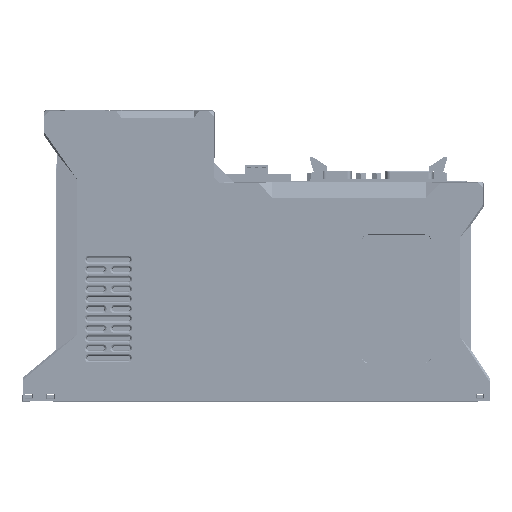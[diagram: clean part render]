
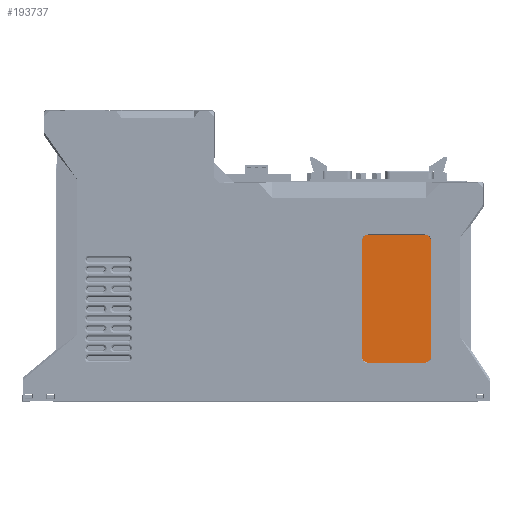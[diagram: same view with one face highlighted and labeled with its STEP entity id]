
A CAD part, left-side view. The second image highlights one B-rep face of the part: STEP entity #193737.
In plain terms, the highlighted planar face has unit normal (-1, 0, 0).
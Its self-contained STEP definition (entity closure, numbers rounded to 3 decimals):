
#2357 = PLANE ( 'NONE',  #38071 ) ;
#7243 = DIRECTION ( 'NONE',  ( 0., 0., -1. ) ) ;
#12485 = DIRECTION ( 'NONE',  ( 0., 0., 1. ) ) ;
#12533 = EDGE_LOOP ( 'NONE', ( #302613, #311807, #283146, #198856, #47630, #278766, #237088, #312571 ) ) ;
#17929 = VERTEX_POINT ( 'NONE', #284041 ) ;
#36503 = LINE ( 'NONE', #306897, #340695 ) ;
#38071 = AXIS2_PLACEMENT_3D ( 'NONE', #49239, #234778, #54342 ) ;
#47630 = ORIENTED_EDGE ( 'NONE', *, *, #312237, .T. ) ;
#49239 = CARTESIAN_POINT ( 'NONE',  ( 5.45, -59.326, 181.443 ) ) ;
#49663 = CARTESIAN_POINT ( 'NONE',  ( 5.45, -88.326, 178.443 ) ) ;
#50280 = VERTEX_POINT ( 'NONE', #90992 ) ;
#54342 = DIRECTION ( 'NONE',  ( 0., 0., 1. ) ) ;
#58449 = EDGE_CURVE ( 'NONE', #50280, #244095, #74328, .T. ) ;
#59522 = VERTEX_POINT ( 'NONE', #300338 ) ;
#66879 = DIRECTION ( 'NONE',  ( 0., 1., 0. ) ) ;
#67945 = CIRCLE ( 'NONE', #134321, 3. ) ;
#74328 = LINE ( 'NONE', #328028, #228520 ) ;
#78701 = FACE_OUTER_BOUND ( 'NONE', #12533, .T. ) ;
#82565 = VERTEX_POINT ( 'NONE', #103036 ) ;
#84964 = EDGE_CURVE ( 'NONE', #244095, #17929, #67945, .T. ) ;
#85311 = CARTESIAN_POINT ( 'NONE',  ( 5.45, -56.326, 181.443 ) ) ;
#90992 = CARTESIAN_POINT ( 'NONE',  ( 5.45, -91.326, 181.443 ) ) ;
#94277 = AXIS2_PLACEMENT_3D ( 'NONE', #105350, #211068, #316826 ) ;
#97856 = DIRECTION ( 'NONE',  ( -1., 0., 0. ) ) ;
#103036 = CARTESIAN_POINT ( 'NONE',  ( 5.45, -59.326, 178.443 ) ) ;
#104675 = CARTESIAN_POINT ( 'NONE',  ( 5.45, -88.326, 181.443 ) ) ;
#105350 = CARTESIAN_POINT ( 'NONE',  ( 5.45, -59.326, 240.443 ) ) ;
#113906 = CIRCLE ( 'NONE', #174752, 3. ) ;
#115349 = EDGE_CURVE ( 'NONE', #282447, #82565, #132878, .T. ) ;
#117904 = DIRECTION ( 'NONE',  ( -1., 0., 0. ) ) ;
#132878 = CIRCLE ( 'NONE', #232842, 3. ) ;
#134321 = AXIS2_PLACEMENT_3D ( 'NONE', #223625, #117904, #142162 ) ;
#142162 = DIRECTION ( 'NONE',  ( 0., 0., 1. ) ) ;
#174752 = AXIS2_PLACEMENT_3D ( 'NONE', #104675, #97856, #236435 ) ;
#183353 = VERTEX_POINT ( 'NONE', #331376 ) ;
#193737 = ADVANCED_FACE ( 'NONE', ( #78701 ), #2357, .T. ) ;
#198856 = ORIENTED_EDGE ( 'NONE', *, *, #229287, .T. ) ;
#211068 = DIRECTION ( 'NONE',  ( -1., 0., 0. ) ) ;
#216101 = DIRECTION ( 'NONE',  ( 0., 0., 1. ) ) ;
#216245 = VECTOR ( 'NONE', #7243, 1000. ) ;
#216769 = EDGE_CURVE ( 'NONE', #17929, #183353, #245555, .T. ) ;
#217055 = LINE ( 'NONE', #85311, #216245 ) ;
#221653 = EDGE_CURVE ( 'NONE', #183353, #59522, #293715, .T. ) ;
#222253 = EDGE_CURVE ( 'NONE', #59522, #282447, #217055, .T. ) ;
#223625 = CARTESIAN_POINT ( 'NONE',  ( 5.45, -88.326, 240.443 ) ) ;
#228520 = VECTOR ( 'NONE', #12485, 1000. ) ;
#229287 = EDGE_CURVE ( 'NONE', #82565, #303034, #36503, .T. ) ;
#232842 = AXIS2_PLACEMENT_3D ( 'NONE', #315013, #268114, #216101 ) ;
#234778 = DIRECTION ( 'NONE',  ( -1., 0., 0. ) ) ;
#236435 = DIRECTION ( 'NONE',  ( 0., 0., 1. ) ) ;
#236999 = VECTOR ( 'NONE', #66879, 1000. ) ;
#237088 = ORIENTED_EDGE ( 'NONE', *, *, #84964, .T. ) ;
#244095 = VERTEX_POINT ( 'NONE', #247226 ) ;
#245555 = LINE ( 'NONE', #304387, #236999 ) ;
#247226 = CARTESIAN_POINT ( 'NONE',  ( 5.45, -91.326, 240.443 ) ) ;
#268114 = DIRECTION ( 'NONE',  ( -1., 0., 0. ) ) ;
#278766 = ORIENTED_EDGE ( 'NONE', *, *, #58449, .T. ) ;
#282447 = VERTEX_POINT ( 'NONE', #313162 ) ;
#283146 = ORIENTED_EDGE ( 'NONE', *, *, #115349, .T. ) ;
#284041 = CARTESIAN_POINT ( 'NONE',  ( 5.45, -88.326, 243.443 ) ) ;
#293715 = CIRCLE ( 'NONE', #94277, 3. ) ;
#300338 = CARTESIAN_POINT ( 'NONE',  ( 5.45, -56.326, 240.443 ) ) ;
#302613 = ORIENTED_EDGE ( 'NONE', *, *, #221653, .T. ) ;
#303034 = VERTEX_POINT ( 'NONE', #49663 ) ;
#304387 = CARTESIAN_POINT ( 'NONE',  ( 5.45, -59.326, 243.443 ) ) ;
#306897 = CARTESIAN_POINT ( 'NONE',  ( 5.45, -59.326, 178.443 ) ) ;
#311807 = ORIENTED_EDGE ( 'NONE', *, *, #222253, .T. ) ;
#312237 = EDGE_CURVE ( 'NONE', #303034, #50280, #113906, .T. ) ;
#312571 = ORIENTED_EDGE ( 'NONE', *, *, #216769, .T. ) ;
#313162 = CARTESIAN_POINT ( 'NONE',  ( 5.45, -56.326, 181.443 ) ) ;
#315013 = CARTESIAN_POINT ( 'NONE',  ( 5.45, -59.326, 181.443 ) ) ;
#316826 = DIRECTION ( 'NONE',  ( 0., 0., 1. ) ) ;
#328028 = CARTESIAN_POINT ( 'NONE',  ( 5.45, -91.326, 181.443 ) ) ;
#331216 = DIRECTION ( 'NONE',  ( 0., -1., 0. ) ) ;
#331376 = CARTESIAN_POINT ( 'NONE',  ( 5.45, -59.326, 243.443 ) ) ;
#340695 = VECTOR ( 'NONE', #331216, 1000. ) ;
